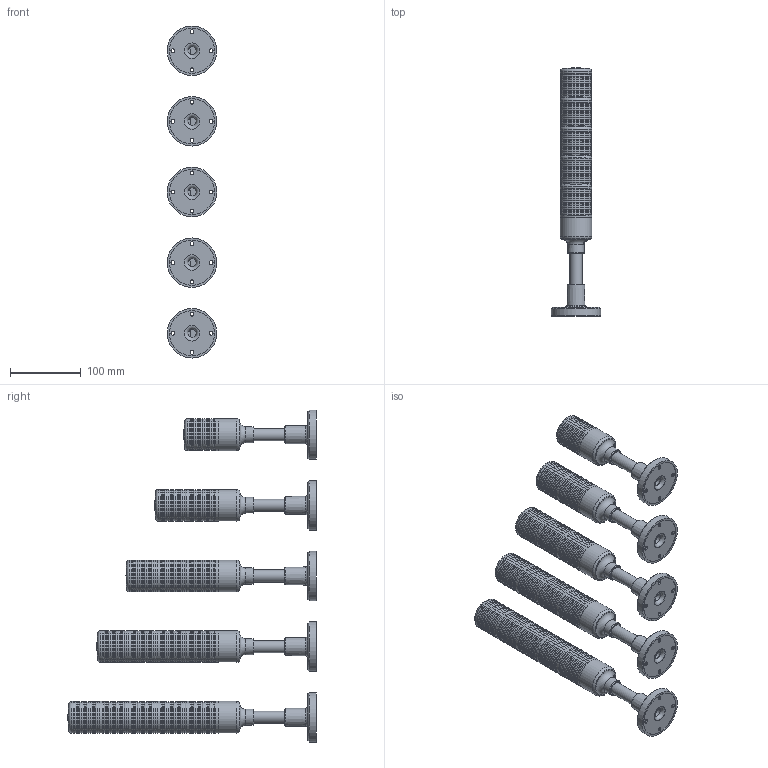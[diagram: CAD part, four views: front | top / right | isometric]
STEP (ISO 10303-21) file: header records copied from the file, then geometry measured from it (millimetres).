
FILE_DESCRIPTION (( 'STEP AP214' ), '1' );
FILE_NAME ('T45-18D.STEP', '2026-01-14T00:51:50', ( '' ), ( '' ), 'SwSTEP 2.0', 'SolidWorks 2023', '' );
FILE_SCHEMA (( 'AUTOMOTIVE_DESIGN' ));
Length unit declared in the file: millimetre
Products named in the file (4): 安装底座; 灯体; 10cm安装管; T45-18D
Assembly tree (7 placements, depth 2):
  T45-18D
    安装底座
    灯体
    10cm安装管  x5
Bounding box: 70 x 352 x 470 mm (x, y, z)
Volume: 1392467 mm3; surface area: 370742.9 mm2
Topology: 35 solids, 35 shells, 920 faces, 1955 edges, 1165 vertices
Faces by surface type: torus 500, plane 200, cylinder 195, cone 15, sphere 10
Full cylindrical faces by diameter (mm): 5.5 x20, 10.5 x20, 12 x5, 13.1 x5, 17.2 x5, 17.5 x5, 18.5 x5, 22 x5, 22.8 x5, 38.5 x5, 42 x40, 45 x40, 64 x5, 70 x5
Entity records: 26603 total; most frequent: CARTESIAN_POINT 9457, DIRECTION 3706, ORIENTED_EDGE 2358, AXIS2_PLACEMENT_3D 1788, EDGE_LOOP 1728, FACE_OUTER_BOUND 1541, EDGE_CURVE 1179, VERTEX_POINT 1049
